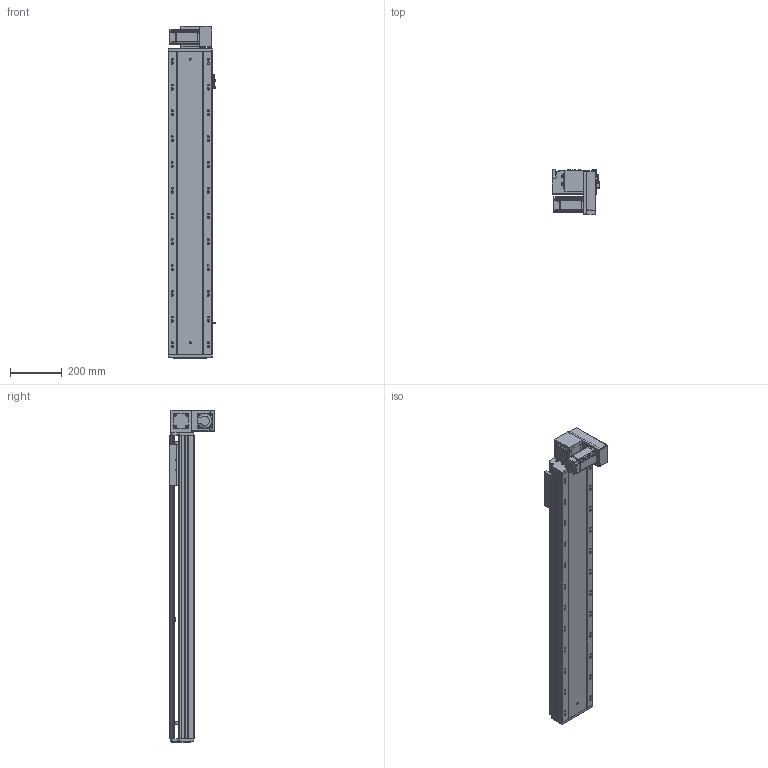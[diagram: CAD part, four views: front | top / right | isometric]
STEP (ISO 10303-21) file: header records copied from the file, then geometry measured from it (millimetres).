
FILE_DESCRIPTION (( 'STEP AP203' ), '1' );
FILE_NAME ('RY170-T-300-DR-P400W.SLDASM_900.step', '2021-03-01T08:23:25', ( '盈信电脑' ), ( '东莞市道滘镇水果街19号' ), 'SwSTEP 2.0', 'SolidWorks 2012', '' );
FILE_SCHEMA (( 'CONFIG_CONTROL_DESIGN' ));
Products named in the file (19): RY170綴裔啣; RY170外置感应片(200共用）; 覜茼ん672; RY170-T-300肮祭謫倰第裔啣-DR_900; RY170肮祭湍臏賑輸; RY170-T-300肮祭謫倰第菁釱-DR_900; RY170肮祭謫ヶ裔啣; RY170-T-300-DR-P400W.SLDASM_900; RY170-T蹟翐M4; 15; RY170-T-呴雄粣揤踡啣; 滅袉蝶18-10; RY170-T肮祭謫裔啣; RY120-T主同步轮轴承压盖; RY170-T肮祭湍揤踡輸1; RY170-T肮祭湍揤踡輸2; RY170肮祭謫萇儂欶; RY170同步轮电机安装板(400W); RY170翋肮祭謫釱
Assembly tree (23 placements, depth 2):
  RY170-T-300-DR-P400W.SLDASM_900
    RY170-T-300肮祭謫倰第菁釱-DR_900
    RY170肮祭湍臏賑輸
    RY170-T-300肮祭謫倰第裔啣-DR_900
    RY170綴裔啣
    覜茼ん672  x3
    RY170外置感应片(200共用）
    RY170肮祭謫ヶ裔啣
    RY170翋肮祭謫釱
    RY170同步轮电机安装板(400W)
    RY170肮祭謫萇儂欶
    RY170-T肮祭湍揤踡輸1  x2
    RY170-T肮祭湍揤踡輸2  x2
    RY120-T主同步轮轴承压盖
    RY170-T肮祭謫裔啣
    RY170-T蹟翐M4
    滅袉蝶18-10  x2
    RY170-T-呴雄粣揤踡啣
    15
Bounding box: 183.7 x 178 x 1288 mm (x, y, z)
Volume: 6474088.8 mm3; surface area: 2201640.9 mm2
Topology: 23 solids, 23 shells, 2878 faces, 8118 edges, 5227 vertices
Faces by surface type: cylinder 1342, plane 1274, cone 232, bspline 30
Entity records: 88469 total; most frequent: CARTESIAN_POINT 20784, ORIENTED_EDGE 13952, DIRECTION 13426, EDGE_CURVE 6976, AXIS2_PLACEMENT_3D 4739, VERTEX_POINT 4583, LINE 3948, VECTOR 3948
